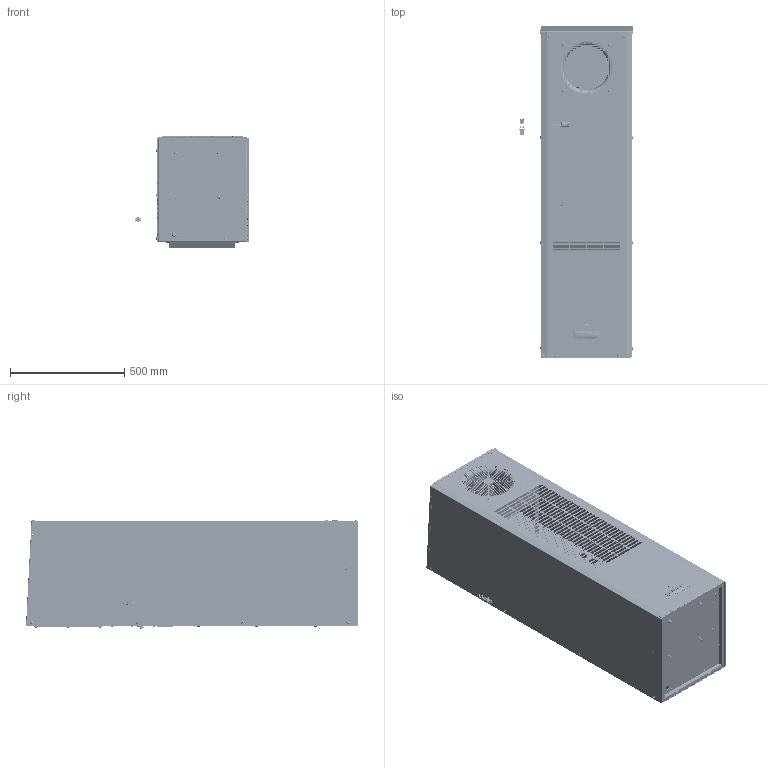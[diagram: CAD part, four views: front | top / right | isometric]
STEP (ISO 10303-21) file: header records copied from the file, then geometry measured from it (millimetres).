
FILE_DESCRIPTION (( 'STEP AP214' ), '1' );
FILE_NAME ('DTS 3641 (Indoor).STEP', '2026-10-07T18:15:51', ( '' ), ( '' ), 'SwSTEP 2.0', 'SolidWorks 2024', '' );
FILE_SCHEMA (( 'AUTOMOTIVE_DESIGN' ));
Length unit declared in the file: millimetre
Products named in the file (82): 80076-027_LtGy - RAL 7035; 80076-030_PN; 885000105_885000105; 025500758_025500758; 025800000_025800000; 089000050_089000050; 80076-072_80076-072; 80076-074_PN; 80076-024; 80076-012_80076-012; 020140042_020140042; 825416016_825416016; 820200023_820200023; 000801289_000801289; 80076-072_Compressed; 025500757_025500757; 020200207_020200207; 885000190(191)_BK3; US-020140240_KB-Rivet 3-16";Lg Flg;MultGrip-long; 825500012_825500012; 885000221_885000221; 885000219(220)_CIRCUIT DIAG; 885000190(191)_BK2; BASE^80076-101_36 ~ R513A ~ 460V; 825416017_825416017; Rivet M4 (variety)_020140045; 885000214_How To Install_PN; 885000214_KEEP_UPRIGHT_PN; 020200075_020200075; 025500743_025500743; 825500006_825500006; 020200025_020200025; 820100000_820100000; 020100896_020100896; 80076-029_PN; 015074025_306mm; 80076-017_PN; 820500006_820500006; 885000190(191)_1DS; 80076-013_LtGy - RAL 7035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
Assembly tree (300 placements, depth 4):
  DTS 3641 (Indoor)
    80076-101_No Interior for Step file
      80076-012_80076-012
      020140042_020140042
      020500682_020500682  x4
      020200600_Harness1  x4
      Rivet M4 (variety)_020140045  x31
      820500006_820500006
      820140007_Per Spec  x8
      HOUSING^80076-101_ALL
        820140007_Per Spec  x23
        020140002_020140002  x14
        80076-011_80076-011
        020500682_020500682  x2
        Rivet M4 (variety)_020140045  x27
        020200600_Harness1  x2
        025500743_025500743  x2
        020103030_020103030  x2
      BASE^80076-101_36 ~ R513A ~ 460V
        80076-010_80076-010
        020140042_020140042  x4
        820140007_Per Spec  x4
        820140008_820140008  x2
        000801289_000801289
        825500006_825500006  x2
        825500005_825500005
        825416016_825416016
        825416017_825416017
        025500757_025500757  x2
        025500758_025500758  x2
        820100000_820100000  x2
        020200207_020200207  x4
        020200075_020200075  x4
        820100021_820100021  x4
        812000142_PN
      020140008_020140008  x2
      825500010_825500010
      825500012_825500012
      025500757_025500757  x6
      020100896_020100896  x14
      020200025_020200025  x12
      80076-024
      011250701_011250701
      80076-016_80076-016
      80076-017_PN
      80076-021_PN
      020220100_020220100  x2
      80076-028_PN
      Rivet M4 (variety)_020140018  x8
      80076-029_PN
      80076-071_80076-071
      015074029^80076-101_DTS 34-36
      80076-030_PN
      025500743_025500743
      085110010_085110010  x4
      020103030_020103030
      820200023_820200023  x4
      820100030_820100030  x4
      80076-072_Compressed
      80076-072_80076-072
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Bounding box: 500.31 x 1454.4 x 490.5 mm (x, y, z)
Volume: 9899742.6 mm3; surface area: 11011091.7 mm2
Topology: 364 solids, 368 shells, 26161 faces, 66199 edges, 41795 vertices
Faces by surface type: plane 10566, cylinder 6500, bspline 4180, cone 3349, torus 1467, sphere 99
Entity records: 661996 total; most frequent: CARTESIAN_POINT 303025, ORIENTED_EDGE 78850, DIRECTION 63774, EDGE_CURVE 39425, VERTEX_POINT 25510, VECTOR 24030, LINE 24030, AXIS2_PLACEMENT_3D 19872
